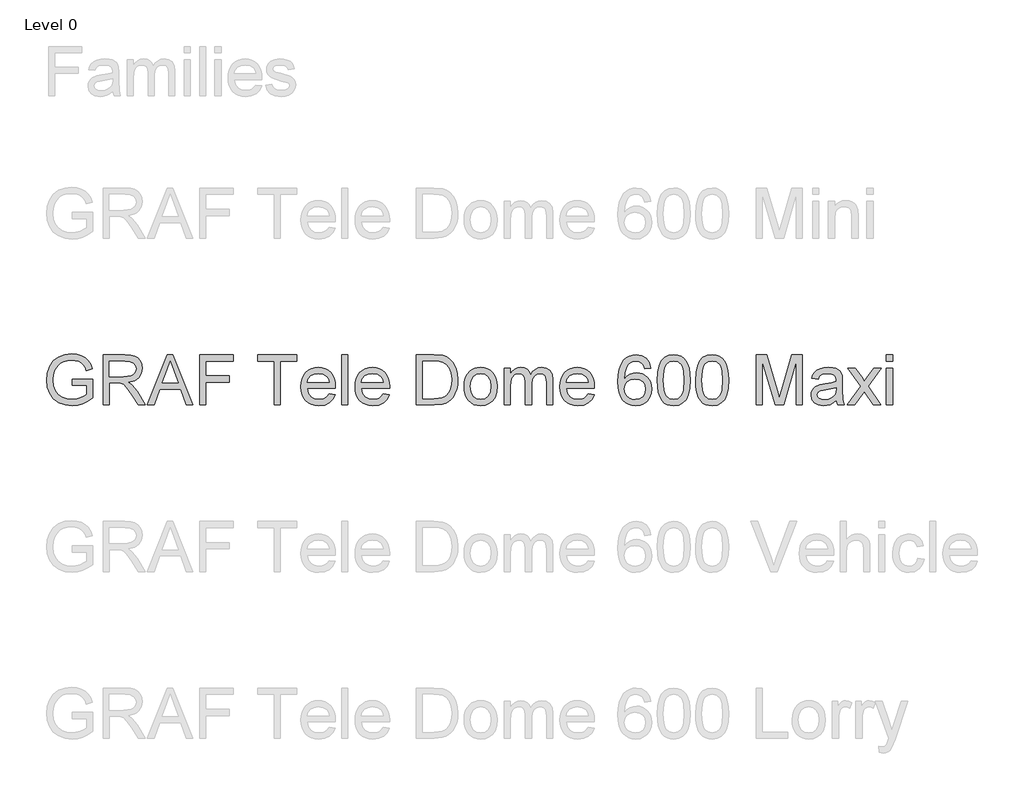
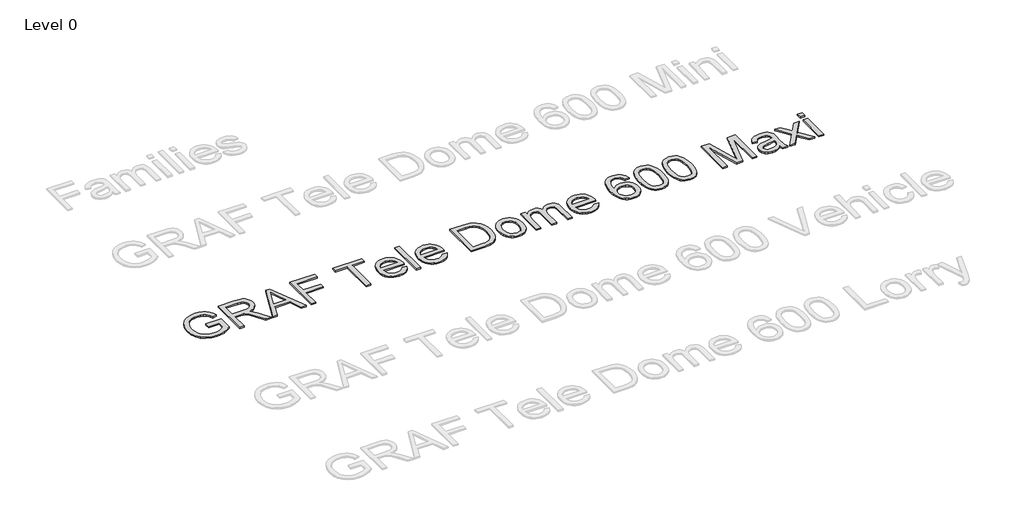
# One storey, part 21 of 25: 1 proxy.
"""IFC4 building model written with IfcOpenShell, lengths in millimetres."""

import ifcopenshell
import ifcopenshell.guid

model = None  # the IFC model being written
_history = None  # IfcOwnerHistory: only IFC2X3 demands one
_inside = {}  # id of a spatial element -> (the spatial element, [elements in it])
_under = {}  # id of a project, library or spatial element -> (it, [spatial elements below it])
_declared = {}  # id of a project -> (the project, [libraries it declares])
_typed = {}  # id of a type object -> (the type object, [elements of that type])
_made_of = {}  # id of a material, layer set ... -> (it, [elements and type objects made of it])


def new_model(schema):
    """Start an empty IFC model of exactly this schema.

    Asked for "IFC4X3", IfcOpenShell would pick the latest addendum, in which some entities
    have other attributes; the version numbers below select the first issue.
    IFC2X3 requires an IfcOwnerHistory on every rooted entity: one is made here for all.
    """
    global model, _history
    if schema == "IFC4X3":
        model = ifcopenshell.file(schema_version=(4, 3, 0, 0))
    else:
        model = ifcopenshell.file(schema=schema)
    _inside.clear()
    _under.clear()
    _declared.clear()
    _typed.clear()
    _made_of.clear()
    _history = None
    if model.schema == "IFC2X3":
        org = make("IfcOrganization", Name="unknown")
        user = make(
            "IfcPersonAndOrganization",
            ThePerson=make("IfcPerson", FamilyName="unknown"),
            TheOrganization=org,
        )
        app = make(
            "IfcApplication",
            ApplicationDeveloper=org,
            Version="unknown",
            ApplicationFullName="unknown",
            ApplicationIdentifier="unknown",
        )
        _history = make(
            "IfcOwnerHistory",
            OwningUser=user,
            OwningApplication=app,
            ChangeAction="ADDED",
            CreationDate=0,
        )
    return model


def make(cls, **values):
    """One entity of the class cls with the attributes given. An attribute that is None is left unset."""
    return model.create_entity(
        cls, **{name: value for name, value in values.items() if value is not None}
    )


def rooted(cls, **values):
    """An entity with a GlobalId (a new one), such as an element, a storey or a relation."""
    return make(cls, GlobalId=ifcopenshell.guid.new(), OwnerHistory=_history, **values)


def si_unit(unit_type, name, prefix=None):
    """IfcSIUnit, for example si_unit("LENGTHUNIT", "METRE", prefix="MILLI")."""
    return make("IfcSIUnit", UnitType=unit_type, Prefix=prefix, Name=name)


def assignment(units):
    """IfcUnitAssignment: the units of a project."""
    return None if units is None else make("IfcUnitAssignment", Units=units)


def point(xyz):
    """IfcCartesianPoint."""
    return None if xyz is None else make("IfcCartesianPoint", Coordinates=xyz)


def direction(xyz):
    """IfcDirection."""
    return None if xyz is None else make("IfcDirection", DirectionRatios=xyz)


def frame(location, z_axis=None, x_axis=None):
    """IfcAxis2Placement3D, a coordinate frame: its origin and axes. An axis left out is left unset."""
    return make(
        "IfcAxis2Placement3D",
        Location=point(location),
        Axis=direction(z_axis),
        RefDirection=direction(x_axis),
    )


def origin():
    """The frame at (0, 0, 0) with its axes left unset."""
    return frame((0.0, 0.0, 0.0))


def origin_with_axes():
    """The frame at (0, 0, 0) with the z axis (0, 0, 1) and the x axis (1, 0, 0) written out."""
    return frame((0.0, 0.0, 0.0), z_axis=(0.0, 0.0, 1.0), x_axis=(1.0, 0.0, 0.0))


def place(relative_to, where):
    """IfcLocalPlacement: puts the frame where relative to a parent placement (None: the world)."""
    return make(
        "IfcLocalPlacement", PlacementRelTo=relative_to, RelativePlacement=where
    )


def context(
    kind, dimensions, precision=None, world=None, true_north=None, identifier=None
):
    """IfcGeometricRepresentationContext, for example the 3D "Model" context."""
    return make(
        "IfcGeometricRepresentationContext",
        ContextIdentifier=identifier,
        ContextType=kind,
        CoordinateSpaceDimension=dimensions,
        Precision=precision,
        WorldCoordinateSystem=world,
        TrueNorth=true_north,
    )


def project(units=None, contexts=None):
    """IfcProject with its units and contexts."""
    return rooted(
        "IfcProject",
        Name="project",
        RepresentationContexts=contexts,
        UnitsInContext=assignment(units),
    )


def spatial(cls, under=None, at=None, **own):
    """A site, building, storey or space (cls), placed at a placement, below another one or the project."""
    s = rooted(cls, ObjectPlacement=at, **own)
    if under is not None:
        _under.setdefault(under.id(), (under, []))[1].append(s)
    return s


def polyline(points):
    """IfcPolyline through the points."""
    return make("IfcPolyline", Points=[point(p) for p in points])


def outline(outer, holes=None, kind="AREA"):
    """IfcArbitraryClosedProfileDef: a profile drawn as a closed curve; with holes, ...WithVoids."""
    if holes is None:
        return make("IfcArbitraryClosedProfileDef", ProfileType=kind, OuterCurve=outer)
    return make(
        "IfcArbitraryProfileDefWithVoids",
        ProfileType=kind,
        OuterCurve=outer,
        InnerCurves=holes,
    )


def extrude(swept, where, along, depth):
    """IfcExtrudedAreaSolid: the profile swept, set in the frame where, extruded along a direction by depth."""
    return make(
        "IfcExtrudedAreaSolid",
        SweptArea=swept,
        Position=where,
        ExtrudedDirection=direction(along),
        Depth=depth,
    )


def shape(context_of_items, identifier, shape_type, items):
    """IfcShapeRepresentation: the items that make up one representation, for example the "Body"."""
    return make(
        "IfcShapeRepresentation",
        ContextOfItems=context_of_items,
        RepresentationIdentifier=identifier,
        RepresentationType=shape_type,
        Items=items,
    )


def made_of(thing, what):
    """Note that an element or type object is made of a material, layer set ...; save() writes the relation."""
    if what is not None:
        _made_of.setdefault(what.id(), (what, []))[1].append(thing)
    return thing


def element(
    cls,
    number,
    at=None,
    inside=None,
    cuts=None,
    type_object=None,
    material=None,
    context=None,
    identifier="Body",
    shape_type=None,
    held_by="IfcProductDefinitionShape",
    body=None,
    shapes=None,
    **own,
):
    """One element of the class cls, such as IfcWall. Its Tag is "e" and its number.

    at: its placement. inside: the storey or other place that contains it. cuts: it is an
    opening in that element (IfcRelVoidsElement). A single representation is given by context,
    identifier, shape_type and body (its items); several are given by shapes. held_by: the class
    of the entity that holds the representations. save() writes the other relations.
    """
    e = rooted(cls, Tag="e%d" % number, ObjectPlacement=at, **own)
    if body is not None:
        shapes = [shape(context, identifier, shape_type, body)]
    if shapes is not None:
        e.Representation = make(held_by, Representations=shapes)
    if inside is not None:
        _inside.setdefault(inside.id(), (inside, []))[1].append(e)
    if cuts is not None:
        rooted(
            "IfcRelVoidsElement", RelatingBuildingElement=cuts, RelatedOpeningElement=e
        )
    if type_object is not None:
        _typed.setdefault(type_object.id(), (type_object, []))[1].append(e)
    return made_of(e, material)


def aggregate(whole, parts):
    """IfcRelAggregates: a whole, such as a stair, and the parts it consists of."""
    return rooted("IfcRelAggregates", RelatingObject=whole, RelatedObjects=parts)


def save(model, path):
    """Write the relations noted so far, then the file.

    IfcRelAggregates (storeys below a building ...), IfcRelContainedInSpatialStructure (elements
    in a storey), IfcRelDefinesByType, IfcRelAssociatesMaterial and IfcRelDeclares: one each for
    every whole, place, type object, material and project.
    """
    for whole, parts in _under.values():
        aggregate(whole, parts)
    for where, things in _inside.values():
        rooted(
            "IfcRelContainedInSpatialStructure",
            RelatedElements=things,
            RelatingStructure=where,
        )
    for kind, things in _typed.values():
        rooted("IfcRelDefinesByType", RelatedObjects=things, RelatingType=kind)
    for what, things in _made_of.values():
        rooted("IfcRelAssociatesMaterial", RelatedObjects=things, RelatingMaterial=what)
    for by, libraries in _declared.values():
        rooted("IfcRelDeclares", RelatingContext=by, RelatedDefinitions=libraries)
    model.write(path)


model = new_model("IFC4")

# Units and contexts
model_context = context("Model", 3, world=origin())
ifc_project = project(units=[si_unit("LENGTHUNIT", "METRE", prefix="MILLI")], contexts=[model_context])

# Site, building, storey
site = spatial("IfcSite", under=ifc_project)
building = spatial("IfcBuilding", under=site)
storey = spatial("IfcBuildingStorey", under=building, Name="Level 0", Elevation=0.0)

# Proxy
placement = place(None, origin())
element("IfcBuildingElementProxy", 1, Name="300mm Arial", ObjectType="300mm Arial", at=placement, inside=storey, context=model_context, shape_type="SweptSolid", body=[
    extrude(outline(polyline([(-15240.9940387, 6916.7454403), (-15240.9940387, 6954.4165566), (-15118.5629107, 6954.4165566), (-15118.5629107, 6841.7710897), (-15148.3153671, 6821.0777274), (-15179.0059225, 6806.2336889), (-15210.5610007, 6797.2941564), (-15242.9070251, 6794.3143123), (-15285.1674693, 6799.050793), (-15323.3628175, 6813.260235), (-15355.0926395, 6836.4459978), (-15377.9565055, 6868.1114405), (-15391.7796715, 6906.0952565), (-15396.3873935, 6948.2361391), (-15391.7980656, 6990.6805243), (-15378.0300819, 7030.1634594), (-15355.6536596, 7063.282036), (-15325.2390156, 7086.6333457), (-15288.1932987, 7100.4841028), (-15245.9236575, 7105.1010218), (-15214.8928112, 7102.4246803), (-15186.9889618, 7094.3956557), (-15163.4904994, 7081.5933623), (-15145.6758138, 7064.5972141), (-15132.4964413, 7042.5886738), (-15122.9039183, 7014.7492038), (-15157.6319786, 7004.9635427), (-15165.3850917, 7024.8199734), (-15174.8120678, 7039.8019677), (-15187.2832674, 7051.0959449), (-15204.169051, 7059.8883246), (-15224.3013932, 7065.5445103), (-15246.5122687, 7067.4299055), (-15272.5123287, 7065.3973575), (-15294.7415982, 7059.2997134), (-15313.1173039, 7049.9003284), (-15327.5566722, 7037.9625577), (-15346.9440533, 7008.9366683), (-15355.7732212, 6980.49939), (-15358.7162772, 6949.7812434), (-15355.175413, 6913.7563991), (-15344.5528204, 6884.1143073), (-15327.1703961, 6861.0665003), (-15303.3500369, 6844.8245102), (-15275.4737787, 6835.195199), (-15245.9236575, 6831.9854286), (-15219.831627, 6834.4042527), (-15194.3833899, 6841.6607251), (-15172.2828791, 6851.6579183), (-15156.234027, 6862.298905), (-15156.234027, 6916.7454403), (-15240.9940387, 6916.7454403)])), origin_with_axes(), (0.0, 0.0, 1.0), 10.0),
    extrude(outline(polyline([(-15057.3473467, 6799.0232018), (-15057.3473467, 7100.3921323), (-14927.4850024, 7100.3921323), (-14892.5821982, 7098.3595842), (-14867.1891434, 7092.2619402), (-14848.6294968, 7081.0047511), (-14834.2269167, 7063.4935682), (-14824.9838815, 7041.7793334), (-14821.9028698, 7017.912989), (-14827.0072325, 6988.2249119), (-14842.3203206, 6963.6136065), (-14853.9200997, 6953.5842236), (-14868.3019865, 6945.5689946), (-14905.4120827, 6935.5809984), (-14884.0013506, 6919.467767), (-14853.467145, 6880.6930048), (-14803.2144645, 6799.0232018), (-14846.9924219, 6799.0232018), (-14886.2086426, 6861.4895646), (-14914.5355562, 6902.8395009), (-14934.4379722, 6922.3740348), (-14952.3538253, 6929.5477337), (-14974.2060158, 6930.8721089), (-15019.6762304, 6930.8721089), (-15019.6762304, 6799.0232018), (-15057.3473467, 6799.0232018)]), holes=[polyline([(-15019.6762304, 6968.5432252), (-14935.3576771, 6968.5432252), (-14911.1418448, 6969.8767974), (-14892.3522719, 6973.8775141), (-14878.2072092, 6980.8120897), (-14867.9249074, 6990.9472387), (-14861.6617165, 7003.2069062), (-14859.5739861, 7016.5150374), (-14863.5563087, 7034.890743), (-14875.5032765, 7049.6979933), (-14896.058683, 7059.4652603), (-14925.8663217, 7062.721016), (-15019.6762304, 7062.721016), (-15019.6762304, 6968.5432252)])]), origin_with_axes(), (0.0, 0.0, 1.0), 10.0),
    extrude(outline(polyline([(-14791.0743586, 6799.0232018), (-14670.7769462, 7100.3921323), (-14638.6976362, 7100.3921323), (-14518.4002238, 6799.0232018), (-14558.2050557, 6799.0232018), (-14592.7123868, 6893.2009926), (-14716.835772, 6893.2009926), (-14751.2695268, 6799.0232018), (-14791.0743586, 6799.0232018)]), holes=[polyline([(-14703.003409, 6930.8721089), (-14606.4711735, 6930.8721089), (-14633.6208647, 7004.9635427), (-14654.7372912, 7062.721016), (-14673.499273, 7011.4382658), (-14703.003409, 6930.8721089)])]), origin_with_axes(), (0.0, 0.0, 1.0), 10.0),
    extrude(outline(polyline([(-14478.1539335, 6799.0232018), (-14478.1539335, 7100.3921323), (-14275.6716834, 7100.3921323), (-14275.6716834, 7062.721016), (-14440.4828172, 7062.721016), (-14440.4828172, 6973.2521147), (-14299.2161311, 6973.2521147), (-14299.2161311, 6935.5809984), (-14440.4828172, 6935.5809984), (-14440.4828172, 6799.0232018), (-14478.1539335, 6799.0232018)])), origin_with_axes(), (0.0, 0.0, 1.0), 10.0),
    extrude(outline(polyline([(-14030.8094274, 6799.0232018), (-14030.8094274, 7062.721016), (-14129.6961077, 7062.721016), (-14129.6961077, 7100.3921323), (-13894.2516308, 7100.3921323), (-13894.2516308, 7062.721016), (-13993.1383111, 7062.721016), (-13993.1383111, 6799.0232018), (-14030.8094274, 6799.0232018)])), origin_with_axes(), (0.0, 0.0, 1.0), 10.0),
    extrude(outline(polyline([(-13701.6286181, 6864.9476554), (-13664.6932658, 6860.2387658), (-13678.001397, 6832.4084929), (-13699.2373851, 6811.6047661), (-13727.9229837, 6798.6369257), (-13763.5799461, 6794.3143123), (-13786.9542484, 6796.1790141), (-13807.7809678, 6801.7731197), (-13826.0601045, 6811.0966291), (-13841.7916583, 6824.1495421), (-13854.4422004, 6840.5685754), (-13863.4783019, 6859.9904455), (-13868.8999628, 6882.4151523), (-13870.7071831, 6907.842696), (-13868.8815687, 6934.1324631), (-13863.4047255, 6957.3044302), (-13854.2766535, 6977.3585975), (-13841.4973527, 6994.2949649), (-13825.8071856, 7007.7502488), (-13807.9465147, 7017.361166), (-13787.9153401, 7023.1277162), (-13765.7136617, 7025.0498997), (-13744.2270539, 7023.1323148), (-13724.7959868, 7017.3795601), (-13707.4204603, 7007.7916356), (-13692.1004744, 6994.3685413), (-13679.5947859, 6977.4689621), (-13670.6621512, 6957.451583), (-13665.3025704, 6934.3164041), (-13663.5160434, 6908.0634252), (-13663.7367726, 6897.9098821), (-13833.0360668, 6897.9098821), (-13826.5153584, 6869.7117272), (-13811.3678173, 6848.9815768), (-13789.5064297, 6836.2344656), (-13762.8441821, 6831.9854286), (-13742.7946134, 6833.9535973), (-13725.9088298, 6839.8581033), (-13712.1868314, 6850.0668287), (-13701.6286181, 6864.9476554)]), holes=[polyline([(-13833.0360668, 6935.5809984), (-13701.1871597, 6935.5809984), (-13706.2823254, 6955.4834144), (-13716.2703215, 6969.7204476), (-13738.2328766, 6982.9641994), (-13765.8608145, 6987.3787834), (-13791.2538692, 6983.8563132), (-13812.2507341, 6973.2889029), (-13826.8464522, 6956.8169866), (-13833.0360668, 6935.5809984)])]), origin_with_axes(), (0.0, 0.0, 1.0), 10.0),
    extrude(outline(polyline([(-13625.8449271, 6799.0232018), (-13625.8449271, 7100.3921323), (-13588.1738108, 7100.3921323), (-13588.1738108, 6799.0232018), (-13625.8449271, 6799.0232018)])), origin_with_axes(), (0.0, 0.0, 1.0), 10.0),
    extrude(outline(polyline([(-13376.71524, 6864.9476554), (-13339.7798877, 6860.2387658), (-13353.0880188, 6832.4084929), (-13374.324007, 6811.6047661), (-13403.0096056, 6798.6369257), (-13438.666568, 6794.3143123), (-13462.0408702, 6796.1790141), (-13482.8675897, 6801.7731197), (-13501.1467263, 6811.0966291), (-13516.8782801, 6824.1495421), (-13529.5288222, 6840.5685754), (-13538.5649238, 6859.9904455), (-13543.9865847, 6882.4151523), (-13545.793805, 6907.842696), (-13543.9681906, 6934.1324631), (-13538.4913474, 6957.3044302), (-13529.3632754, 6977.3585975), (-13516.5839745, 6994.2949649), (-13500.8938074, 7007.7502488), (-13483.0331366, 7017.361166), (-13463.0019619, 7023.1277162), (-13440.8002835, 7025.0498997), (-13419.3136758, 7023.1323148), (-13399.8826086, 7017.3795601), (-13382.5070821, 7007.7916356), (-13367.1870963, 6994.3685413), (-13354.6814077, 6977.4689621), (-13345.748773, 6957.451583), (-13340.3891922, 6934.3164041), (-13338.6026653, 6908.0634252), (-13338.8233945, 6897.9098821), (-13508.1226887, 6897.9098821), (-13501.6019803, 6869.7117272), (-13486.4544391, 6848.9815768), (-13464.5930516, 6836.2344656), (-13437.930804, 6831.9854286), (-13417.8812352, 6833.9535973), (-13400.9954517, 6839.8581033), (-13387.2734532, 6850.0668287), (-13376.71524, 6864.9476554)]), holes=[polyline([(-13508.1226887, 6935.5809984), (-13376.2737816, 6935.5809984), (-13381.3689472, 6955.4834144), (-13391.3569434, 6969.7204476), (-13413.3194985, 6982.9641994), (-13440.9474363, 6987.3787834), (-13466.3404911, 6983.8563132), (-13487.3373559, 6973.2889029), (-13501.9330741, 6956.8169866), (-13508.1226887, 6935.5809984)])]), origin_with_axes(), (0.0, 0.0, 1.0), 10.0),
    extrude(outline(polyline([(-13178.500421, 6799.0232018), (-13178.500421, 7100.3921323), (-13074.5369691, 7100.3921323), (-13020.7526214, 7096.0511247), (-12996.7299272, 7087.6818093), (-12976.4596292, 7074.4932398), (-12955.6191142, 7051.5374033), (-12940.7750757, 7022.9897605), (-12931.8907255, 6989.4021343), (-12928.9292754, 6951.3263478), (-12930.9342323, 6918.9803234), (-12936.9491029, 6890.515454), (-12946.1093646, 6866.2812276), (-12957.5504947, 6846.627132), (-12970.7206701, 6831.1117089), (-12985.0680679, 6819.2934998), (-13001.5399842, 6810.5287112), (-13021.0837152, 6804.1735498), (-13069.533774, 6799.0232018), (-13178.500421, 6799.0232018)]), holes=[polyline([(-13140.8293047, 6836.6943181), (-13074.1690871, 6836.6943181), (-13046.5963316, 6838.0554815), (-13025.6822402, 6842.1389717), (-13009.9001026, 6848.7056653), (-12997.7232085, 6857.5164391), (-12984.6358066, 6873.8228085), (-12974.8041602, 6894.930038), (-12968.6513339, 6920.930098), (-12966.6003918, 6951.914959), (-12970.6195026, 6992.9705897), (-12982.6768349, 7023.2840661), (-13000.4915206, 7044.106187), (-13021.782691, 7056.6877512), (-13043.4509405, 7061.2126998), (-13075.1991567, 7062.721016), (-13140.8293047, 7062.721016), (-13140.8293047, 6836.6943181)])]), origin_with_axes(), (0.0, 0.0, 1.0), 10.0),
    extrude(outline(polyline([(-12891.2581591, 6909.682106), (-12889.2210126, 6938.3447119), (-12883.1095729, 6963.0433894), (-12872.9238402, 6983.7781383), (-12858.6638144, 7000.5489588), (-12844.3072195, 7011.2681204), (-12828.4607026, 7018.9246644), (-12811.1242635, 7023.5185909), (-12792.2979024, 7025.0498997), (-12771.514869, 7023.1851978), (-12752.7229968, 7017.5910922), (-12735.9222859, 7008.2675829), (-12721.1127364, 6995.2146698), (-12709.0255136, 6978.8738115), (-12700.391783, 6959.6864662), (-12695.2115447, 6937.6526339), (-12693.4847985, 6912.7723147), (-12696.5382191, 6874.7149223), (-12705.6984808, 6845.7442152), (-12720.6988691, 6824.0483745), (-12741.2726697, 6807.8155815), (-12765.7092312, 6797.6896296), (-12792.2979024, 6794.3143123), (-12813.3844386, 6796.1721164), (-12832.3510547, 6801.7455286), (-12849.1977508, 6811.034549), (-12863.9245269, 6824.0391775), (-12875.882991, 6840.538685), (-12884.4247511, 6860.3123422), (-12889.5498071, 6883.3601492), (-12891.2581591, 6909.682106)]), holes=[polyline([(-12853.5870428, 6909.7556824), (-12849.2276412, 6875.6622185), (-12836.1494363, 6851.3728097), (-12816.4677495, 6836.8322739), (-12792.2979024, 6831.9854286), (-12768.23842, 6836.859865), (-12748.5935214, 6851.4831743), (-12735.5153165, 6876.0944798), (-12731.1559148, 6910.9329048), (-12735.5429076, 6944.0330873), (-12748.703886, 6967.9914022), (-12768.3763757, 6982.5319381), (-12792.2979024, 6987.3787834), (-12816.4677495, 6982.5503322), (-12836.1494363, 6968.0649786), (-12849.2276412, 6943.8307522), (-12853.5870428, 6909.7556824)])]), origin_with_axes(), (0.0, 0.0, 1.0), 10.0),
    extrude(outline(polyline([(-12651.1047927, 6799.0232018), (-12651.1047927, 7020.3410101), (-12613.4336764, 7020.3410101), (-12613.4336764, 6983.9206926), (-12602.1029109, 7000.6501263), (-12587.5347839, 7013.7559224), (-12570.2259361, 7022.2264053), (-12550.673008, 7025.0498997), (-12529.7221284, 7022.171223), (-12512.9283153, 7013.5351932), (-12500.3835393, 6999.7120272), (-12492.1797708, 6981.2719422), (-12478.4485753, 7000.4247986), (-12462.7859994, 7014.1054103), (-12445.1920429, 7022.3137773), (-12425.666706, 7025.0498997), (-12397.3489895, 7020.49736), (-12376.4073069, 7006.8397409), (-12363.4670577, 6983.7091605), (-12359.1536413, 6950.7377366), (-12359.1536413, 6799.0232018), (-12396.8247576, 6799.0232018), (-12396.8247576, 6934.5509288), (-12400.3196366, 6966.0048394), (-12405.2308612, 6974.6776575), (-12412.9747772, 6981.4926714), (-12422.9351822, 6985.9072554), (-12434.4958739, 6987.3787834), (-12454.9041276, 6983.6079929), (-12471.5415908, 6972.2956216), (-12482.6056419, 6952.6691171), (-12486.2936589, 6923.9559274), (-12486.2936589, 6799.0232018), (-12523.9647752, 6799.0232018), (-12523.9647752, 6938.7447836), (-12526.144476, 6960.0451511), (-12532.6835784, 6975.2386775), (-12544.1890878, 6984.3437569), (-12561.2680095, 6987.3787834), (-12575.7809542, 6985.3554324), (-12589.1534647, 6979.2853795), (-12600.1899246, 6969.3157774), (-12607.6947173, 6955.593779), (-12611.9989366, 6936.5558857), (-12613.4336764, 6910.6385992), (-12613.4336764, 6799.0232018), (-12651.1047927, 6799.0232018)])), origin_with_axes(), (0.0, 0.0, 1.0), 10.0),
    extrude(outline(polyline([(-12147.6950705, 6864.9476554), (-12110.7597182, 6860.2387658), (-12124.0678494, 6832.4084929), (-12145.3038375, 6811.6047661), (-12173.9894361, 6798.6369257), (-12209.6463985, 6794.3143123), (-12233.0207007, 6796.1790141), (-12253.8474202, 6801.7731197), (-12272.1265568, 6811.0966291), (-12287.8581107, 6824.1495421), (-12300.5086528, 6840.5685754), (-12309.5447543, 6859.9904455), (-12314.9664152, 6882.4151523), (-12316.7736355, 6907.842696), (-12314.9480211, 6934.1324631), (-12309.4711779, 6957.3044302), (-12300.3431059, 6977.3585975), (-12287.5638051, 6994.2949649), (-12271.873638, 7007.7502488), (-12254.0129671, 7017.361166), (-12233.9817925, 7023.1277162), (-12211.7801141, 7025.0498997), (-12190.2935063, 7023.1323148), (-12170.8624391, 7017.3795601), (-12153.4869127, 7007.7916356), (-12138.1669268, 6994.3685413), (-12125.6612382, 6977.4689621), (-12116.7286035, 6957.451583), (-12111.3690227, 6934.3164041), (-12109.5824958, 6908.0634252), (-12109.803225, 6897.9098821), (-12279.1025192, 6897.9098821), (-12272.5818108, 6869.7117272), (-12257.4342697, 6848.9815768), (-12235.5728821, 6836.2344656), (-12208.9106345, 6831.9854286), (-12188.8610658, 6833.9535973), (-12171.9752822, 6839.8581033), (-12158.2532838, 6850.0668287), (-12147.6950705, 6864.9476554)]), holes=[polyline([(-12279.1025192, 6935.5809984), (-12147.2536121, 6935.5809984), (-12152.3487777, 6955.4834144), (-12162.3367739, 6969.7204476), (-12184.299329, 6982.9641994), (-12211.9272668, 6987.3787834), (-12237.3203216, 6983.8563132), (-12258.3171864, 6973.2889029), (-12272.9129046, 6956.8169866), (-12279.1025192, 6935.5809984)])]), origin_with_axes(), (0.0, 0.0, 1.0), 10.0),
    extrude(outline(polyline([(-11770.542449, 7020.3410101), (-11808.2135653, 7015.6321206), (-11814.2836183, 7034.3021318), (-11822.4873868, 7047.049243), (-11839.5755054, 7058.8030727), (-11860.2320795, 7062.721016), (-11877.7432624, 7060.4401476), (-11894.2243758, 7053.5975425), (-11908.3786356, 7039.1857653), (-11919.9393273, 7019.3477287), (-11927.7476226, 6991.2875296), (-11930.6446933, 6952.2092646), (-11915.5339404, 6969.8400092), (-11897.4249492, 6982.2652236), (-11877.3293952, 6989.6320606), (-11856.2589539, 6992.0876729), (-11838.1591597, 6990.4092113), (-11821.4573172, 6985.3738265), (-11806.1534262, 6976.9815185), (-11792.2474868, 6965.2322872), (-11780.6913936, 6950.8251086), (-11772.4370413, 6934.4589583), (-11767.48443, 6916.1338365), (-11765.8335595, 6895.849743), (-11768.9421624, 6868.8747957), (-11778.2679709, 6843.868017), (-11793.038433, 6822.65962), (-11812.4809965, 6807.0798175), (-11835.7127445, 6797.5056886), (-11861.8507602, 6794.3143123), (-11884.3076568, 6796.4296338), (-11904.589451, 6802.7755982), (-11922.696143, 6813.3522055), (-11938.6277326, 6828.1594558), (-11951.6162663, 6847.8227485), (-11960.8937904, 6872.9674829), (-11966.4603048, 6903.593659), (-11968.3158096, 6939.7012768), (-11966.2556705, 6980.1820918), (-11960.075253, 7014.7308097), (-11949.7745571, 7043.3474304), (-11935.3535829, 7066.0319539), (-11919.7231966, 7081.0645319), (-11901.6004098, 7091.8020877), (-11880.9852225, 7098.2446211), (-11857.8776347, 7100.3921323), (-11824.8234374, 7095.0762374), (-11798.3543279, 7079.1285529), (-11779.8130753, 7053.7998776), (-11770.542449, 7020.3410101)]), holes=[polyline([(-11930.6446933, 6896.4383541), (-11928.4649925, 6879.7457086), (-11921.9258901, 6863.8072212), (-11911.772347, 6850.1036169), (-11898.7493244, 6840.1156207), (-11883.0315661, 6834.0179766), (-11864.7938162, 6831.9854286), (-11839.9341904, 6836.1976774), (-11820.3904594, 6848.834424), (-11807.7261217, 6868.7000517), (-11803.5046758, 6894.5989442), (-11807.6709394, 6919.45857), (-11820.1697302, 6938.4136898), (-11840.044555, 6950.4158399), (-11866.3389206, 6954.4165566), (-11891.1617582, 6950.4158399), (-11911.9194998, 6938.4136898), (-11925.9633949, 6919.9184225), (-11930.6446933, 6896.4383541)])]), origin_with_axes(), (0.0, 0.0, 1.0), 10.0),
    extrude(outline(polyline([(-11732.8713327, 6947.2796459), (-11730.1030207, 6995.5181725), (-11721.7980847, 7033.9894321), (-11708.0392981, 7063.282036), (-11688.9094343, 7083.9845953), (-11664.2705377, 7096.290248), (-11633.9846524, 7100.3921323), (-11610.7712985, 7097.9641111), (-11589.9859658, 7090.6800476), (-11572.6035415, 7078.8250503), (-11559.598913, 7062.6842278), (-11549.7764637, 7042.3955357), (-11541.9405772, 7018.0969299), (-11536.8086234, 6987.2408276), (-11535.0979721, 6947.2796459), (-11537.838693, 6899.3170308), (-11546.0608556, 6860.9377416), (-11559.7368687, 6831.6175466), (-11578.8391413, 6810.8322139), (-11603.5332203, 6798.4437877), (-11633.9846524, 6794.3143123), (-11654.733197, 6796.107737), (-11673.1272967, 6801.4880112), (-11689.1669517, 6810.4551348), (-11702.8521619, 6823.0091079), (-11715.9855492, 6845.7028285), (-11725.36654, 6873.9791583), (-11730.9951346, 6907.8380975), (-11732.8713327, 6947.2796459)]), holes=[polyline([(-11695.2002164, 6947.3532223), (-11690.7856325, 6888.0966299), (-11685.2674026, 6867.8286312), (-11677.5418807, 6853.8008309), (-11657.8234057, 6837.4392792), (-11633.9846524, 6831.9854286), (-11610.1458991, 6837.4576733), (-11590.4274242, 6853.8744073), (-11582.7019023, 6867.9252003), (-11577.1836724, 6888.1886004), (-11572.7690884, 6947.3532223), (-11577.0365196, 7005.2762424), (-11582.3708085, 7025.4775625), (-11589.838813, 7039.8387559), (-11609.5204997, 7057.0004509), (-11634.4261108, 7062.721016), (-11658.0073467, 7057.6810326), (-11676.9532695, 7042.5610826), (-11684.9363088, 7026.9260978), (-11690.6384797, 7005.8464595), (-11695.2002164, 6947.3532223)])]), origin_with_axes(), (0.0, 0.0, 1.0), 10.0),
    extrude(outline(polyline([(-11502.1357454, 6947.2796459), (-11499.3674333, 6995.5181725), (-11491.0624973, 7033.9894321), (-11477.3037107, 7063.282036), (-11458.1738469, 7083.9845953), (-11433.5349503, 7096.290248), (-11403.2490651, 7100.3921323), (-11380.0357112, 7097.9641111), (-11359.2503784, 7090.6800476), (-11341.8679542, 7078.8250503), (-11328.8633256, 7062.6842278), (-11319.0408764, 7042.3955357), (-11311.2049899, 7018.0969299), (-11306.073036, 6987.2408276), (-11304.3623847, 6947.2796459), (-11307.1031056, 6899.3170308), (-11315.3252682, 6860.9377416), (-11329.0012814, 6831.6175466), (-11348.103554, 6810.8322139), (-11372.7976329, 6798.4437877), (-11403.2490651, 6794.3143123), (-11423.9976096, 6796.107737), (-11442.3917093, 6801.4880112), (-11458.4313643, 6810.4551348), (-11472.1165745, 6823.0091079), (-11485.2499618, 6845.7028285), (-11494.6309527, 6873.9791583), (-11500.2595472, 6907.8380975), (-11502.1357454, 6947.2796459)]), holes=[polyline([(-11464.464629, 6947.3532223), (-11460.0500451, 6888.0966299), (-11454.5318152, 6867.8286312), (-11446.8062933, 6853.8008309), (-11427.0878183, 6837.4392792), (-11403.2490651, 6831.9854286), (-11379.4103118, 6837.4576733), (-11359.6918368, 6853.8744073), (-11351.9663149, 6867.9252003), (-11346.448085, 6888.1886004), (-11342.0335011, 6947.3532223), (-11346.3009322, 7005.2762424), (-11351.6352211, 7025.4775625), (-11359.1032256, 7039.8387559), (-11378.7849124, 7057.0004509), (-11403.6905234, 7062.721016), (-11427.2717593, 7057.6810326), (-11446.2176821, 7042.5610826), (-11454.2007214, 7026.9260978), (-11459.9028923, 7005.8464595), (-11464.464629, 6947.3532223)])]), origin_with_axes(), (0.0, 0.0, 1.0), 10.0),
    extrude(outline(polyline([(-11139.5512509, 6799.0232018), (-11139.5512509, 7100.3921323), (-11074.7304434, 7100.3921323), (-11013.073421, 6887.9770683), (-11000.6390095, 6843.6104996), (-10987.1745285, 6891.6558882), (-10926.5475757, 7100.3921323), (-10861.7267682, 7100.3921323), (-10861.7267682, 6799.0232018), (-10899.3978845, 6799.0232018), (-10899.3978845, 7062.721016), (-10975.1079991, 6799.0232018), (-11026.17002, 6799.0232018), (-11101.8801346, 7062.721016), (-11101.8801346, 6799.0232018), (-11139.5512509, 6799.0232018)])), origin_with_axes(), (0.0, 0.0, 1.0), 10.0),
    extrude(outline(polyline([(-10659.244518, 6827.2765391), (-10677.2431446, 6811.8438894), (-10695.7752001, 6801.7455286), (-10715.2637488, 6796.1721164), (-10736.131855, 6794.3143123), (-10767.6133567, 6798.7840785), (-10790.8359077, 6812.1933772), (-10805.1557143, 6832.5556457), (-10809.9289832, 6857.8843211), (-10808.1263615, 6873.5009117), (-10802.7184961, 6887.6827627), (-10794.3767719, 6899.8228685), (-10783.7725734, 6909.314224), (-10757.3954343, 6921.675059), (-10724.8010895, 6927.3404417), (-10686.2838447, 6933.3001301), (-10659.4652472, 6940.289888), (-10659.244518, 6948.6775975), (-10661.8380861, 6965.4898046), (-10669.6187903, 6976.4894763), (-10687.0196086, 6984.6564566), (-10711.2630321, 6987.3787834), (-10733.7038338, 6985.5669645), (-10749.3756068, 6980.131508), (-10760.0625788, 6970.0791325), (-10767.5489774, 6954.4165566), (-10805.2200937, 6959.1254461), (-10798.6809912, 6979.7268379), (-10788.9229213, 6995.9136456), (-10775.035376, 7008.2928748), (-10756.1078473, 7017.4715306), (-10732.9588728, 7023.1553074), (-10706.4069898, 7025.0498997), (-10680.9403587, 7023.3760366), (-10660.7528342, 7018.3544473), (-10645.5317166, 7010.8036694), (-10634.9643063, 7001.5422402), (-10627.9561543, 6990.0919131), (-10623.4128117, 6975.9744415), (-10621.5734017, 6943.0122147), (-10621.5734017, 6896.1440485), (-10619.6604153, 6830.6978416), (-10612.1556226, 6799.0232018), (-10649.8267389, 6799.0232018), (-10659.244518, 6827.2765391)]), holes=[polyline([(-10659.244518, 6902.6187717), (-10720.0186236, 6891.067277), (-10752.4290274, 6884.9604359), (-10767.107519, 6875.027622), (-10772.2578669, 6860.5330714), (-10769.4527667, 6849.3310647), (-10761.0374661, 6840.1524089), (-10747.195906, 6834.0271737), (-10728.1120275, 6831.9854286), (-10707.8785178, 6834.2387058), (-10689.9994528, 6840.9985375), (-10675.5049022, 6850.9589425), (-10665.4249355, 6862.8139398), (-10660.9551693, 6875.027622), (-10659.4652472, 6891.9501938), (-10659.244518, 6902.6187717)])]), origin_with_axes(), (0.0, 0.0, 1.0), 10.0),
    extrude(outline(polyline([(-10593.3200645, 6799.0232018), (-10512.8274839, 6910.2707172), (-10588.6111749, 7020.3410101), (-10543.2881131, 7020.3410101), (-10506.7206428, 6967.3660028), (-10489.6509182, 6942.3500271), (-10474.862062, 6962.8042661), (-10433.2178202, 7020.3410101), (-10387.8947584, 7020.3410101), (-10467.5044221, 6910.2707172), (-10390.8378143, 6799.0232018), (-10436.1608761, 6799.0232018), (-10482.2932783, 6865.9041485), (-10490.7545642, 6878.1178308), (-10547.9970027, 6799.0232018), (-10593.3200645, 6799.0232018)])), origin_with_axes(), (0.0, 0.0, 1.0), 10.0),
    extrude(outline(polyline([(-10357.8755876, 7062.721016), (-10357.8755876, 7100.3921323), (-10320.2044713, 7100.3921323), (-10320.2044713, 7062.721016), (-10357.8755876, 7062.721016)])), origin_with_axes(), (0.0, 0.0, 1.0), 10.0),
    extrude(outline(polyline([(-10357.8755876, 6799.0232018), (-10357.8755876, 7020.3410101), (-10320.2044713, 7020.3410101), (-10320.2044713, 6799.0232018), (-10357.8755876, 6799.0232018)])), origin_with_axes(), (0.0, 0.0, 1.0), 10.0),
])

save(model, "model.ifc")
